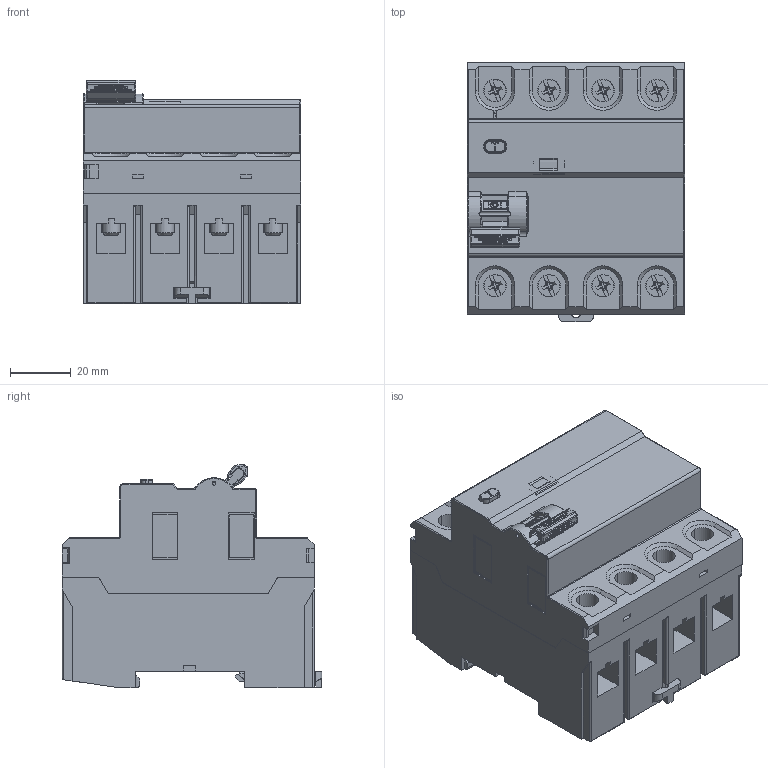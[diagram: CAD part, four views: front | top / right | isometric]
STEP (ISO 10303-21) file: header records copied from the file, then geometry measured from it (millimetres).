
FILE_DESCRIPTION (( 'STEP AP203' ), '1' );
FILE_NAME ('RDW-RDWS-RDWH_4.STEP', '2019-06-24T13:45:51', ( 'Usuário do Windows' ), ( 'WEG Equipamentos Elétricos' ), 'SwSTEP 2.0', 'SolidWorks 2018', '' );
FILE_SCHEMA (( 'CONFIG_CONTROL_DESIGN' ));
Length unit declared in the file: millimetre
Products named in the file (2): RDW-RDWS-RDWH_4
Bounding box: 71.6 x 85.5 x 73.7 mm (x, y, z)
Volume: 318898.4 mm3; surface area: 60516.6 mm2
Topology: 17 solids, 24 shells, 1238 faces, 3285 edges, 2113 vertices
Faces by surface type: plane 781, cylinder 241, torus 80, bspline 69, cone 45, sphere 22
Entity records: 40097 total; most frequent: CARTESIAN_POINT 9788, ORIENTED_EDGE 6536, DIRECTION 5956, EDGE_CURVE 3268, LINE 2210, VECTOR 2210, VERTEX_POINT 2113, AXIS2_PLACEMENT_3D 1873
